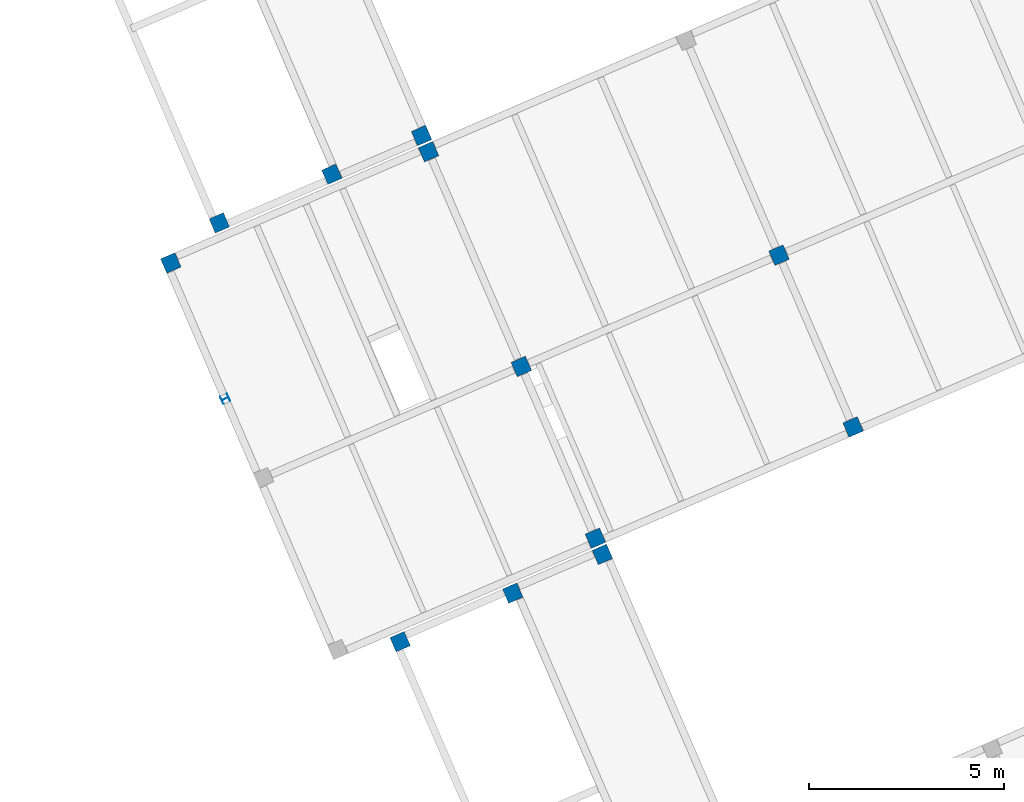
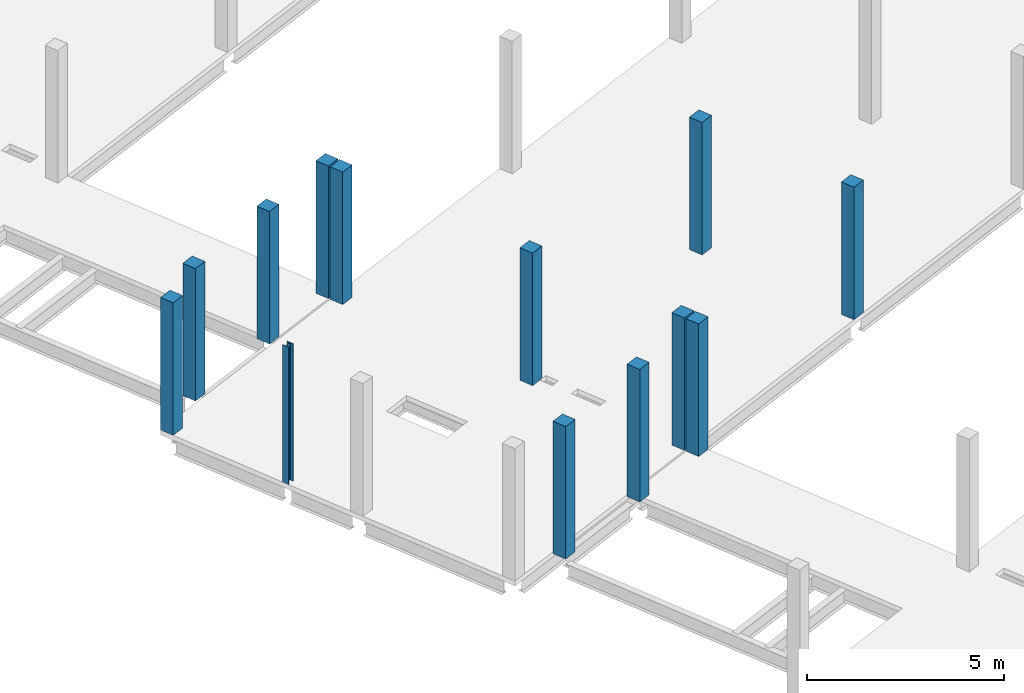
# One storey, part 2 of 24: 13 columns.
"""IFC4 building model written with IfcOpenShell, lengths in metres."""

from ifc_helpers import new_model, entity, si_unit, converted_unit, derived_unit, direction, frame, origin, place, context, subcontext, project, spatial, line, arc, indexed_curve, outline, extrude, source, transform, mapped, material, type_object, type_shapes, element, save


model = new_model("IFC4")

# Units and contexts
model_context = context("Model", 3, precision=1e-05, world=origin(), true_north=direction((6.12323399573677e-17, 1.0)))
body_context = subcontext(model_context, "Body", "Model", "MODEL_VIEW")
ifc_project = project(units=[si_unit("LENGTHUNIT", "METRE"), si_unit("AREAUNIT", "SQUARE_METRE"), si_unit("VOLUMEUNIT", "CUBIC_METRE"), converted_unit("PLANEANGLEUNIT", "DEGREE", entity("IfcPlaneAngleMeasure", 0.0174532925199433), si_unit("PLANEANGLEUNIT", "RADIAN"), dimensions=[0, 0, 0, 0, 0, 0, 0]), si_unit("MASSUNIT", "GRAM", prefix="KILO"), derived_unit("MOMENTOFINERTIAUNIT", [(si_unit("LENGTHUNIT", "METRE"), 4)]), derived_unit("LINEARFORCEUNIT", [(si_unit("MASSUNIT", "GRAM", prefix="KILO"), 1), (si_unit("TIMEUNIT", "SECOND"), -2)]), derived_unit("WARPINGCONSTANTUNIT", [(si_unit("LENGTHUNIT", "METRE"), 6)]), derived_unit("THERMALTRANSMITTANCEUNIT", [(si_unit("MASSUNIT", "GRAM", prefix="KILO"), 1), (si_unit("THERMODYNAMICTEMPERATUREUNIT", "KELVIN"), -1), (si_unit("TIMEUNIT", "SECOND"), -3)]), derived_unit("USERDEFINED", [(si_unit("MASSUNIT", "GRAM", prefix="KILO"), 1), (si_unit("TIMEUNIT", "SECOND"), -2), (si_unit("THERMODYNAMICTEMPERATUREUNIT", "KELVIN"), -1)]), derived_unit("THERMALRESISTANCEUNIT", [(si_unit("MASSUNIT", "GRAM", prefix="KILO"), -1), (si_unit("TIMEUNIT", "SECOND"), 3), (si_unit("THERMODYNAMICTEMPERATUREUNIT", "KELVIN"), 1)])], contexts=[model_context])

# Site, building, storey
site_placement = place(None, origin())
site = spatial("IfcSite", under=ifc_project, at=site_placement, Name="Default", CompositionType="ELEMENT")
building_placement = place(site_placement, frame((12.6613425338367, -82.5732315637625, 317.15), z_axis=(0.0, 0.0, 1.0), x_axis=(-0.396377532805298, 0.918087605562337, 0.0)))
building = spatial("IfcBuilding", under=site, at=building_placement, Name="CESFAM Coyhaique", CompositionType="ELEMENT")
storey_placement = place(building_placement, frame((0.0, 0.0, 4.20000000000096)))
storey = spatial("IfcBuildingStorey", under=building, at=storey_placement, Name="Nivel 2", CompositionType="ELEMENT", Elevation=4.20000000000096)

# Columns
ifc_material_1 = material(Name="HA")
column_type_1 = type_object("IfcColumnType", Name="M_Concrete-Square-Column:400 x 400mm", PredefinedType="COLUMN", material=ifc_material_1)
shared_shape_1 = source(origin(), body_context, "Body", "SweptSolid", [
    extrude(outline(indexed_curve([(-0.199999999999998, -0.2), (0.200000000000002, -0.2), (0.200000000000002, 0.2), (-0.199999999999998, 0.2), (-0.199999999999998, -0.2)], self_intersect=False)), frame((23.9688534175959, 10.0028504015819, 4.20000000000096), z_axis=(0.0, 0.0, 1.0), x_axis=(-1.0, 0.0, 0.0)), (0.0, 0.0, 1.0), 4.10000000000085),
])
type_shapes(column_type_1, [shared_shape_1])
column_1_placement = place(storey_placement, frame((0.0, 0.0, -4.20000000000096)))
element("IfcColumn", 1, at=column_1_placement, inside=storey, type_object=column_type_1, Name="M_Concrete-Square-Column:400 x 400mm", ObjectType="M_Concrete-Square-Column:400 x 400mm", PredefinedType="COLUMN", context=body_context, shape_type="MappedRepresentation", body=[
    mapped(shared_shape_1, transform((0.0, 0.0, 0.0), scale=1.0)),
])
column_type_2 = type_object("IfcColumnType", Name="M_Concrete-Square-Column:400 x 400mm", PredefinedType="COLUMN", material=ifc_material_1)
shared_shape_2 = source(origin(), body_context, "Body", "SweptSolid", [
    extrude(outline(indexed_curve([(-0.199999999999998, -0.2), (0.200000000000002, -0.2), (0.200000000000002, 0.2), (-0.199999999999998, 0.2), (-0.199999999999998, -0.2)], self_intersect=False)), frame((23.9688534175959, 2.8028504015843, 4.20000000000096), z_axis=(0.0, 0.0, 1.0), x_axis=(-1.0, 0.0, 0.0)), (0.0, 0.0, 1.0), 4.10000000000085),
])
type_shapes(column_type_2, [shared_shape_2])
column_2_placement = place(storey_placement, frame((0.0, 0.0, -4.20000000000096)))
element("IfcColumn", 2, at=column_2_placement, inside=storey, type_object=column_type_2, Name="M_Concrete-Square-Column:400 x 400mm", ObjectType="M_Concrete-Square-Column:400 x 400mm", PredefinedType="COLUMN", context=body_context, shape_type="MappedRepresentation", body=[
    mapped(shared_shape_2, transform((0.0, 0.0, 0.0), scale=1.0)),
])
column_type_3 = type_object("IfcColumnType", Name="M_Concrete-Square-Column:400 x 400mm", PredefinedType="COLUMN", material=ifc_material_1)
shared_shape_3 = source(origin(), body_context, "Body", "SweptSolid", [
    extrude(outline(indexed_curve([(-0.200000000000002, -0.2), (0.199999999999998, -0.2), (0.199999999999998, 0.2), (-0.200000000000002, 0.2), (-0.200000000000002, -0.2)], self_intersect=False)), frame((28.7688534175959, 10.0028504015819, 4.20000000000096), z_axis=(0.0, 0.0, 1.0), x_axis=(-1.0, 0.0, 0.0)), (0.0, 0.0, 1.0), 4.10000000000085),
])
type_shapes(column_type_3, [shared_shape_3])
column_3_placement = place(storey_placement, frame((0.0, 0.0, -4.20000000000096)))
element("IfcColumn", 3, at=column_3_placement, inside=storey, type_object=column_type_3, Name="M_Concrete-Square-Column:400 x 400mm", ObjectType="M_Concrete-Square-Column:400 x 400mm", PredefinedType="COLUMN", context=body_context, shape_type="MappedRepresentation", body=[
    mapped(shared_shape_3, transform((0.0, 0.0, 0.0), scale=1.0)),
])
column_type_4 = type_object("IfcColumnType", Name="M_Concrete-Square-Column:400 x 400mm", PredefinedType="COLUMN", material=ifc_material_1)
shared_shape_4 = source(origin(), body_context, "Body", "SweptSolid", [
    extrude(outline(indexed_curve([(-0.200000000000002, -0.2), (0.199999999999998, -0.2), (0.199999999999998, 0.2), (-0.200000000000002, 0.2), (-0.200000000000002, -0.2)], self_intersect=False)), frame((28.7688534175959, 2.8028504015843, 4.20000000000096), z_axis=(0.0, 0.0, 1.0), x_axis=(-1.0, 0.0, 0.0)), (0.0, 0.0, 1.0), 4.10000000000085),
])
type_shapes(column_type_4, [shared_shape_4])
column_4_placement = place(storey_placement, frame((0.0, 0.0, -4.20000000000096)))
element("IfcColumn", 4, at=column_4_placement, inside=storey, type_object=column_type_4, Name="M_Concrete-Square-Column:400 x 400mm", ObjectType="M_Concrete-Square-Column:400 x 400mm", PredefinedType="COLUMN", context=body_context, shape_type="MappedRepresentation", body=[
    mapped(shared_shape_4, transform((0.0, 0.0, 0.0), scale=1.0)),
])
column_type_5 = type_object("IfcColumnType", Name="M_Concrete-Square-Column:400 x 400mm", PredefinedType="COLUMN", material=ifc_material_1)
shared_shape_5 = source(origin(), body_context, "Body", "SweptSolid", [
    extrude(outline(indexed_curve([(-0.199999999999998, -0.2), (0.200000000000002, -0.2), (0.200000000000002, 0.2), (-0.199999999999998, 0.2), (-0.199999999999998, -0.2)], self_intersect=False)), frame((34.768853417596, 17.2028504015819, 4.20000000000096), z_axis=(0.0, 0.0, 1.0), x_axis=(-1.0, 0.0, 0.0)), (0.0, 0.0, 1.0), 4.10000000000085),
])
type_shapes(column_type_5, [shared_shape_5])
column_5_placement = place(storey_placement, frame((0.0, 0.0, -4.20000000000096)))
element("IfcColumn", 5, at=column_5_placement, inside=storey, type_object=column_type_5, Name="M_Concrete-Square-Column:400 x 400mm", ObjectType="M_Concrete-Square-Column:400 x 400mm", PredefinedType="COLUMN", context=body_context, shape_type="MappedRepresentation", body=[
    mapped(shared_shape_5, transform((0.0, 0.0, 0.0), scale=1.0)),
])
column_type_6 = type_object("IfcColumnType", Name="M_Concrete-Square-Column:400 x 400mm", PredefinedType="COLUMN", material=ifc_material_1)
shared_shape_6 = source(origin(), body_context, "Body", "SweptSolid", [
    extrude(outline(indexed_curve([(-0.199999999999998, -0.2), (0.200000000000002, -0.2), (0.200000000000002, 0.2), (-0.199999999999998, 0.2), (-0.199999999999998, -0.2)], self_intersect=False)), frame((34.768853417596, 10.0028504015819, 4.20000000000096), z_axis=(0.0, 0.0, 1.0), x_axis=(-1.0, 0.0, 0.0)), (0.0, 0.0, 1.0), 4.10000000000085),
])
type_shapes(column_type_6, [shared_shape_6])
column_6_placement = place(storey_placement, frame((0.0, 0.0, -4.20000000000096)))
element("IfcColumn", 6, at=column_6_placement, inside=storey, type_object=column_type_6, Name="M_Concrete-Square-Column:400 x 400mm", ObjectType="M_Concrete-Square-Column:400 x 400mm", PredefinedType="COLUMN", context=body_context, shape_type="MappedRepresentation", body=[
    mapped(shared_shape_6, transform((0.0, 0.0, 0.0), scale=1.0)),
])
column_type_7 = type_object("IfcColumnType", Name="M_Concrete-Square-Column:400 x 400mm", PredefinedType="COLUMN", material=ifc_material_1)
shared_shape_7 = source(origin(), body_context, "Body", "SweptSolid", [
    extrude(outline(indexed_curve([(-0.199999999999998, -0.2), (0.200000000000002, -0.2), (0.200000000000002, 0.2), (-0.199999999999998, 0.2), (-0.199999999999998, -0.2)], self_intersect=False)), frame((23.5188534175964, 10.0028504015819, 4.20000000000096), z_axis=(0.0, 0.0, 1.0), x_axis=(-1.0, 0.0, 0.0)), (0.0, 0.0, 1.0), 4.10000000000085),
])
type_shapes(column_type_7, [shared_shape_7])
column_7_placement = place(storey_placement, frame((0.0, 0.0, -4.20000000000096)))
element("IfcColumn", 7, at=column_7_placement, inside=storey, type_object=column_type_7, Name="M_Concrete-Square-Column:400 x 400mm", ObjectType="M_Concrete-Square-Column:400 x 400mm", PredefinedType="COLUMN", context=body_context, shape_type="MappedRepresentation", body=[
    mapped(shared_shape_7, transform((0.0, 0.0, 0.0), scale=1.0)),
])
column_type_8 = type_object("IfcColumnType", Name="M_Concrete-Square-Column:400 x 400mm", PredefinedType="COLUMN", material=ifc_material_1)
shared_shape_8 = source(origin(), body_context, "Body", "SweptSolid", [
    extrude(outline(indexed_curve([(-0.199999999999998, -0.2), (0.200000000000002, -0.2), (0.200000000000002, 0.2), (-0.199999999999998, 0.2), (-0.199999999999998, -0.2)], self_intersect=False)), frame((23.5188534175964, 15.6528504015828, 4.20000000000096), z_axis=(0.0, 0.0, 1.0), x_axis=(-1.0, 0.0, 0.0)), (0.0, 0.0, 1.0), 4.10000000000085),
])
type_shapes(column_type_8, [shared_shape_8])
column_8_placement = place(storey_placement, frame((0.0, 0.0, -4.20000000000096)))
element("IfcColumn", 8, at=column_8_placement, inside=storey, type_object=column_type_8, Name="M_Concrete-Square-Column:400 x 400mm", ObjectType="M_Concrete-Square-Column:400 x 400mm", PredefinedType="COLUMN", context=body_context, shape_type="MappedRepresentation", body=[
    mapped(shared_shape_8, transform((0.0, 0.0, 0.0), scale=1.0)),
])
column_type_9 = type_object("IfcColumnType", Name="M_Concrete-Square-Column:400 x 400mm", PredefinedType="COLUMN", material=ifc_material_1)
shared_shape_9 = source(origin(), body_context, "Body", "SweptSolid", [
    extrude(outline(indexed_curve([(-0.199999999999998, -0.2), (0.200000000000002, -0.2), (0.200000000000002, 0.2), (-0.199999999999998, 0.2), (-0.199999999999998, -0.2)], self_intersect=False)), frame((35.2188534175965, 10.0028504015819, 4.20000000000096), z_axis=(0.0, 0.0, 1.0), x_axis=(-1.0, 0.0, 0.0)), (0.0, 0.0, 1.0), 4.10000000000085),
])
type_shapes(column_type_9, [shared_shape_9])
column_9_placement = place(storey_placement, frame((0.0, 0.0, -4.20000000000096)))
element("IfcColumn", 9, at=column_9_placement, inside=storey, type_object=column_type_9, Name="M_Concrete-Square-Column:400 x 400mm", ObjectType="M_Concrete-Square-Column:400 x 400mm", PredefinedType="COLUMN", context=body_context, shape_type="MappedRepresentation", body=[
    mapped(shared_shape_9, transform((0.0, 0.0, 0.0), scale=1.0)),
])
column_type_10 = type_object("IfcColumnType", Name="M_Concrete-Square-Column:400 x 400mm", PredefinedType="COLUMN", material=ifc_material_1)
shared_shape_10 = source(origin(), body_context, "Body", "SweptSolid", [
    extrude(outline(indexed_curve([(-0.199999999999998, -0.2), (0.200000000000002, -0.2), (0.200000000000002, 0.2), (-0.199999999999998, 0.2), (-0.199999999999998, -0.2)], self_intersect=False)), frame((35.2188534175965, 15.6528504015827, 4.20000000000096), z_axis=(0.0, 0.0, 1.0), x_axis=(-1.0, 0.0, 0.0)), (0.0, 0.0, 1.0), 4.10000000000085),
])
type_shapes(column_type_10, [shared_shape_10])
column_10_placement = place(storey_placement, frame((0.0, 0.0, -4.20000000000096)))
element("IfcColumn", 10, at=column_10_placement, inside=storey, type_object=column_type_10, Name="M_Concrete-Square-Column:400 x 400mm", ObjectType="M_Concrete-Square-Column:400 x 400mm", PredefinedType="COLUMN", context=body_context, shape_type="MappedRepresentation", body=[
    mapped(shared_shape_10, transform((0.0, 0.0, 0.0), scale=1.0)),
])
ifc_material_2 = material(Name="Steel, 45-345", Category="Metal")
column_type_11 = type_object("IfcColumnType", Name="M_W Shapes-Column:HEA 200", PredefinedType="COLUMN", material=ifc_material_2)
shared_shape_11 = source(origin(), body_context, "Body", "SweptSolid", [
    extrude(outline(indexed_curve([(-0.0999999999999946, -0.0999999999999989), (0.100000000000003, -0.0999999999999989), (0.100000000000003, -0.0889999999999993), (0.0163850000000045, -0.0889999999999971), (0.00740474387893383, -0.0852802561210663), (0.00368500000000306, -0.0762999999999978), (0.00368500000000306, 0.0763000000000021), (0.00740474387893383, 0.0852802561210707), (0.0163850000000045, 0.0890000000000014), (0.100000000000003, 0.0890000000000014), (0.100000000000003, 0.100000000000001), (-0.0999999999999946, 0.100000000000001), (-0.0999999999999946, 0.0890000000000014), (-0.0163849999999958, 0.0890000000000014), (-0.00740474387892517, 0.0852802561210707), (-0.00368499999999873, 0.0763000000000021), (-0.0036849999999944, -0.0762999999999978), (-0.00740474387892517, -0.0852802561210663), (-0.0163849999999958, -0.0889999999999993), (-0.0999999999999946, -0.0889999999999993)], segments=[line(1, 2, 3, 4), arc(4, 5, 6), line(6, 7), arc(7, 8, 9), line(9, 10, 11, 12, 13, 14), arc(14, 15, 16), line(16, 17), arc(17, 18, 19), line(19, 20, 1)], self_intersect=False)), frame((31.018853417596, 17.3028504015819, 4.20000000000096), z_axis=(0.0, 0.0, 1.0), x_axis=(-1.0, 0.0, 0.0)), (0.0, 0.0, 1.0), 4.25000000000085),
])
type_shapes(column_type_11, [shared_shape_11])
column_11_placement = place(storey_placement, frame((0.0, 0.0, -4.20000000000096)))
element("IfcColumn", 11, at=column_11_placement, inside=storey, type_object=column_type_11, Name="M_W Shapes-Column:HEA 200", ObjectType="M_W Shapes-Column:HEA 200", PredefinedType="COLUMN", context=body_context, shape_type="MappedRepresentation", body=[
    mapped(shared_shape_11, transform((0.0, 0.0, 0.0), scale=1.0)),
])
column_type_12 = type_object("IfcColumnType", Name="M_Concrete-Square-Column:400 x 400mm", PredefinedType="COLUMN", material=ifc_material_1)
shared_shape_12 = source(origin(), body_context, "Body", "SweptSolid", [
    extrude(outline(indexed_curve([(-0.160000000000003, -0.201001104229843), (0.239999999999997, -0.201001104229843), (0.239999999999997, 0.198998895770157), (-0.160000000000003, 0.198998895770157), (-0.160000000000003, 0.00400441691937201), (-0.160000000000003, -0.201001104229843)], self_intersect=False)), frame((23.5588534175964, 12.5068548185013, 4.20000000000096), z_axis=(0.0, 0.0, 1.0), x_axis=(-1.0, 0.0, 0.0)), (0.0, 0.0, 1.0), 4.10000000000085),
])
type_shapes(column_type_12, [shared_shape_12])
column_12_placement = place(storey_placement, frame((0.0, 0.0, -4.20000000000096)))
element("IfcColumn", 12, at=column_12_placement, inside=storey, type_object=column_type_12, Name="M_Concrete-Square-Column:400 x 400mm", ObjectType="M_Concrete-Square-Column:400 x 400mm", PredefinedType="COLUMN", context=body_context, shape_type="MappedRepresentation", body=[
    mapped(shared_shape_12, transform((0.0, 0.0, 0.0), scale=1.0)),
])
column_type_13 = type_object("IfcColumnType", Name="M_Concrete-Square-Column:400 x 400mm", PredefinedType="COLUMN", material=ifc_material_1)
shared_shape_13 = source(origin(), body_context, "Body", "SweptSolid", [
    extrude(outline(indexed_curve([(-0.199999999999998, -0.2), (0.200000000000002, -0.2), (0.200000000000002, 0.2), (-0.199999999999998, 0.2), (-0.199999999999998, -0.2)], self_intersect=False)), frame((35.2189293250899, 12.5078519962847, 4.20000000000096), z_axis=(0.0, 0.0, 1.0), x_axis=(-1.0, 0.0, 0.0)), (0.0, 0.0, 1.0), 4.10000000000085),
])
type_shapes(column_type_13, [shared_shape_13])
column_13_placement = place(storey_placement, frame((0.0, 0.0, -4.20000000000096)))
element("IfcColumn", 13, at=column_13_placement, inside=storey, type_object=column_type_13, Name="M_Concrete-Square-Column:400 x 400mm", ObjectType="M_Concrete-Square-Column:400 x 400mm", PredefinedType="COLUMN", context=body_context, shape_type="MappedRepresentation", body=[
    mapped(shared_shape_13, transform((0.0, 0.0, 0.0), scale=1.0)),
])

save(model, "model.ifc")
